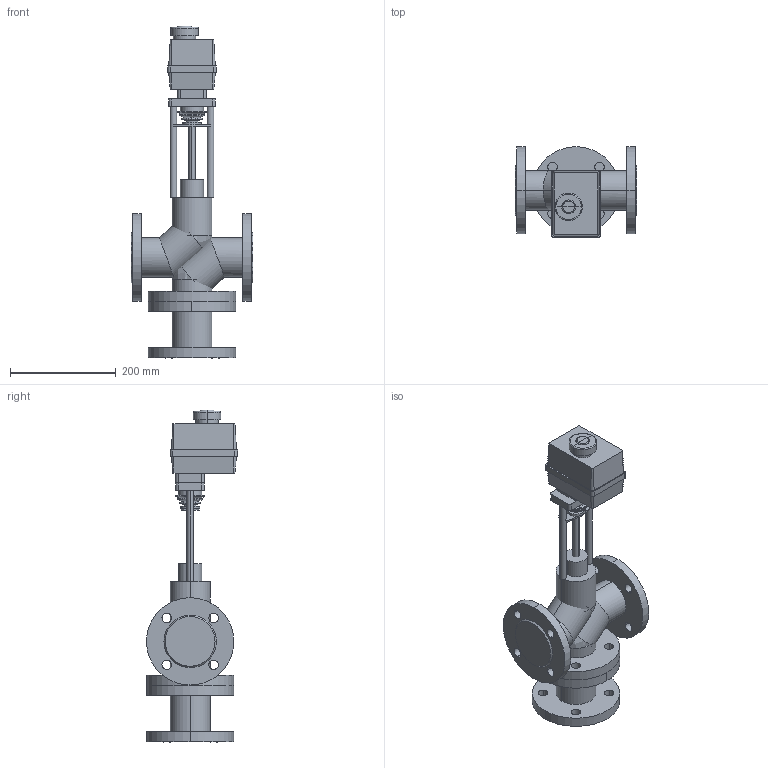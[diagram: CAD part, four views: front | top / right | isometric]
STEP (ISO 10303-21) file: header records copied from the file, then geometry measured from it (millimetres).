
FILE_DESCRIPTION(/* description */ (''),/* implementation_level */ '2;1');
FILE_NAME(/* name */ 'ТРК DN50 PN 2.5 МПа Regada ST0',/* time_stamp */ '2026-07-14T23:18:28+03:00',/* author */ (''),/* organization */ (''),/* preprocessor_version */ 'ST-DEVELOPER v20',/* originating_system */ '',/* authorisation */ '');
FILE_SCHEMA (('AP242_MANAGED_MODEL_BASED_3D_ENGINEERING_MIM_LF { 1 0 10303 442 1 1 4 }'));
Length unit declared in the file: millimetre
Products named in the file (17): TopLevelAssembly; Выдавливание; Модификатор; Модификатор_1; Выдавливание_
1; Выдавливание_
2; Вращение; Выдавливание_
3; Выдавливание_
4; Выдавливание_
5; Выдавливание_
6; Выдавливание_
7; Привод_Regada ST 0; Переход; Объемная геометрия 
присоединена; Полый Выдавливание; Объемная геометрия 
присоединена_1
Assembly tree (16 placements, depth 2):
  TopLevelAssembly
    Выдавливание
    Модификатор
    Модификатор_1
    Выдавливание_
1
    Выдавливание_
2
    Вращение
    Выдавливание_
3
    Выдавливание_
4
    Выдавливание_
5
    Выдавливание_
6
    Выдавливание_
7
    Привод_Regada ST 0
    Переход
    Объемная геометрия 
присоединена
    Полый Выдавливание
    Объемная геометрия 
присоединена_1
Bounding box: 230 x 172.01 x 626.99 mm (x, y, z)
Volume: 5543875.1 mm3; surface area: 687674.5 mm2
Topology: 27 solids, 27 shells, 242 faces, 518 edges, 324 vertices
Faces by surface type: cylinder 108, plane 94, bspline 28, cone 12
Entity records: 7551 total; most frequent: CARTESIAN_POINT 1541, DIRECTION 1284, ORIENTED_EDGE 1020, AXIS2_PLACEMENT_3D 527, EDGE_CURVE 510, VERTEX_POINT 324, EDGE_LOOP 292, CIRCLE 272
